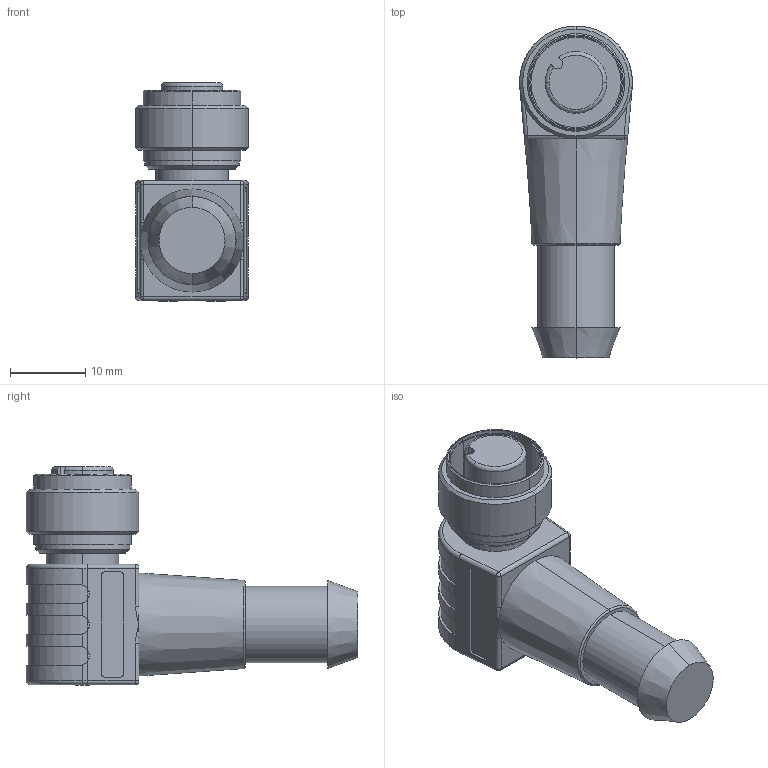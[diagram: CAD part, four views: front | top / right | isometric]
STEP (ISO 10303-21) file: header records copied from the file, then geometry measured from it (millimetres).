
FILE_DESCRIPTION (( 'STEP AP203' ), '1' );
FILE_NAME ('WK-P7X2.step', '2013-08-22T20:00:57', ( 'Turck User' ), ( '' ), 'SwSTEP 2.0', 'SolidWorks 2013', '' );
FILE_SCHEMA (( 'CONFIG_CONTROL_DESIGN' ));
Length unit declared in the file: millimetre
Products named in the file (1): WK-P7X2
Bounding box: 15 x 44.1 x 29.1 mm (x, y, z)
Volume: 7399.4 mm3; surface area: 3469.6 mm2
Topology: 1 solids, 1 shells, 135 faces, 331 edges, 204 vertices
Faces by surface type: cylinder 59, plane 43, torus 13, cone 12, bspline 4, sphere 4
Entity records: 4361 total; most frequent: CARTESIAN_POINT 1189, DIRECTION 654, ORIENTED_EDGE 646, EDGE_CURVE 323, AXIS2_PLACEMENT_3D 265, VERTEX_POINT 204, EDGE_LOOP 149, FACE_OUTER_BOUND 135
